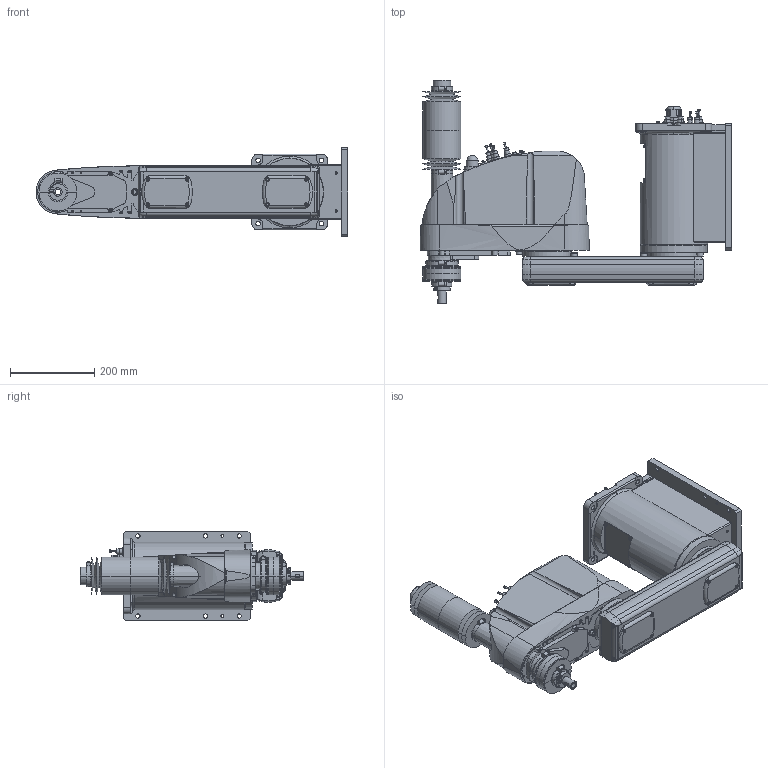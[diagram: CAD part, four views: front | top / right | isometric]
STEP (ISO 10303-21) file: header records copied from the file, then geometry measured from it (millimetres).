
FILE_DESCRIPTION( ( '' ), '1' );
FILE_NAME( '//expscmdclustefs.cadenas.external/client_exchange/iodir/jobs/output/wkb51542323_no0/STEP/G6_551PW_2_14b.stp', '2012-11-23T11:24:48', ( '' ), ( '' ), ' ', ' ', ' ' );
FILE_SCHEMA( ( 'automotive_design' ) );
Length unit declared in the file: millimetre
Products named in the file (8): 1; 2; 3; 4; 5; 6; 7; 8
Bounding box: 740 x 529.5 x 210 mm (x, y, z)
Volume: 22362523.2 mm3; surface area: 1152591 mm2
Topology: 8 solids, 8 shells, 1857 faces, 4500 edges, 2860 vertices
Faces by surface type: plane 886, cylinder 652, cone 278, torus 40, sphere 1
Entity records: 109345 total; most frequent: CARTESIAN_POINT 13210, DIRECTION 9610, STYLED_ITEM 9195, PRESENTATION_STYLE_ASSIGNMENT 9195, COLOUR_RGB 9195, ORIENTED_EDGE 8940, EDGE_CURVE 4470, CURVE_STYLE 4470
